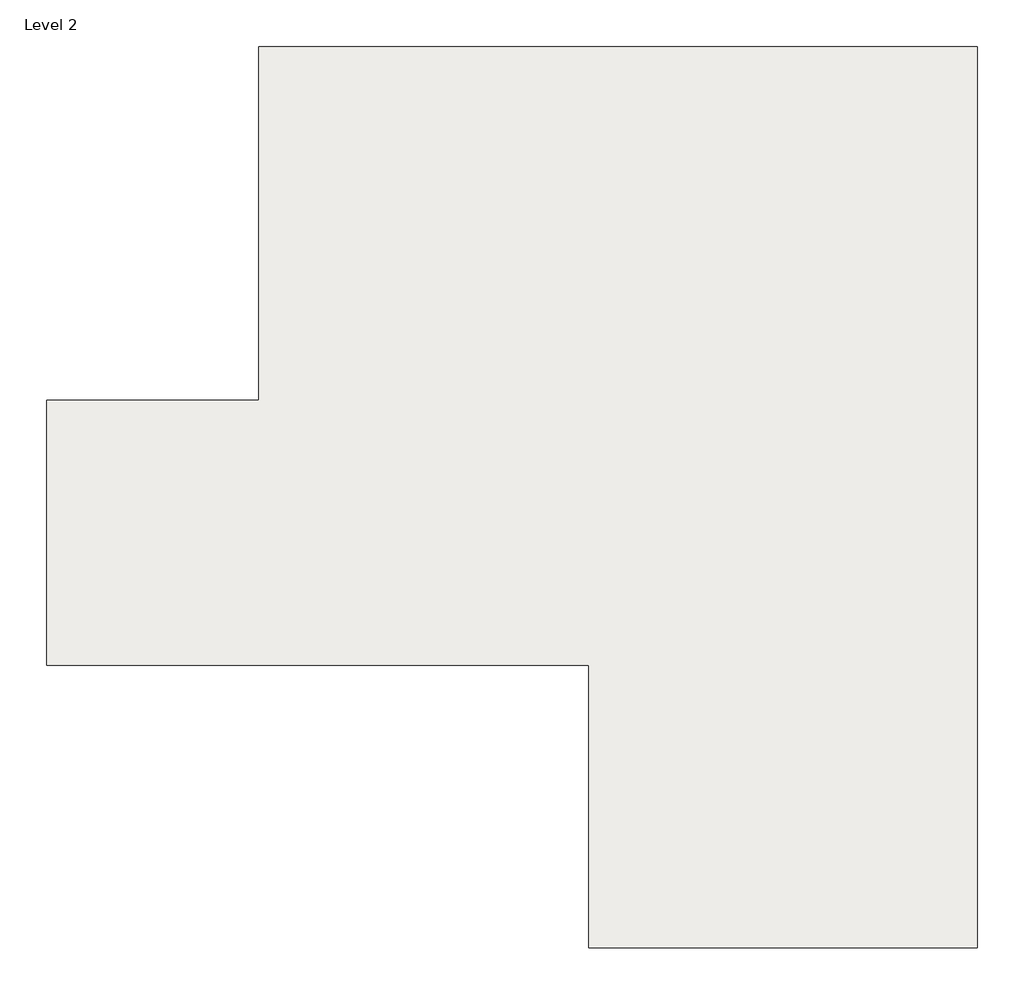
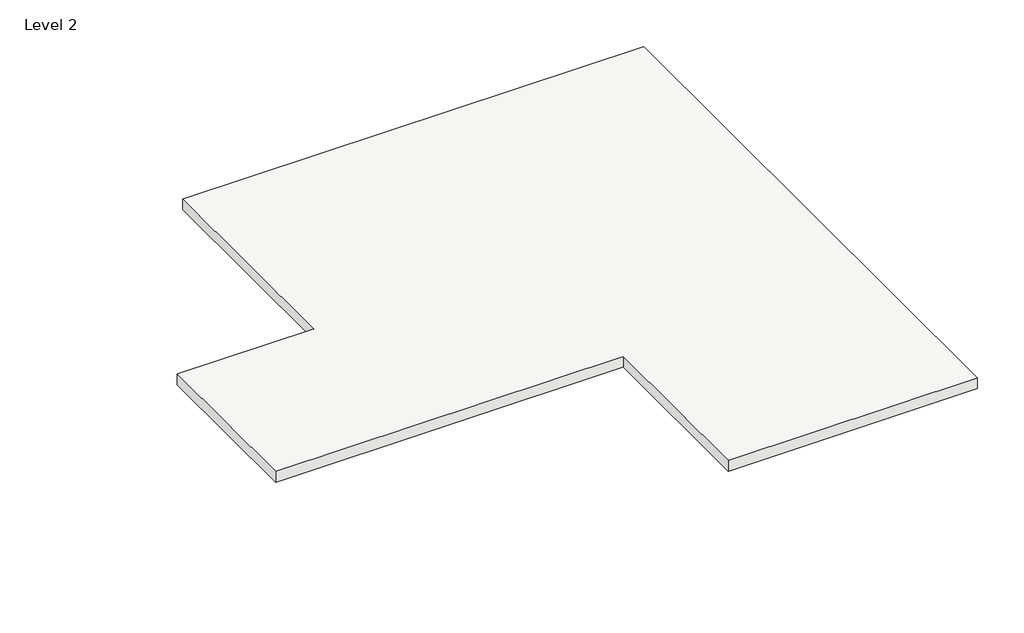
# One storey: 1 slab.
"""IFC4 building model written with IfcOpenShell, lengths in millimetres."""

from ifc_helpers import new_model, si_unit, frame, origin, place, context, project, spatial, polyline, outline, extrude, element, save

model = new_model("IFC4")

# Units and contexts
model_context = context("Model", 3, world=origin())
ifc_project = project(units=[si_unit("LENGTHUNIT", "METRE", prefix="MILLI")], contexts=[model_context])

# Site, building, storey
site = spatial("IfcSite", under=ifc_project)
building = spatial("IfcBuilding", under=site)
storey = spatial("IfcBuildingStorey", under=building, Name="Level 2", Elevation=3000.0)

# Slab
placement = place(None, origin())
element("IfcSlab", 1, ObjectType="Generic 150mm", at=placement, inside=storey, context=model_context, shape_type="SweptSolid", body=[
    extrude(outline(polyline([(-1292.1161882, 1768.9239272), (2107.8838118, 1768.9239272), (2107.8838118, -5881.0760728), (-1192.1161882, -5881.0760728), (-1192.1161882, -3481.0760728), (-5792.1161882, -3481.0760728), (-5792.1161882, -1231.0760728), (-3992.1161882, -1231.0760728), (-3992.1161882, 1768.9239272), (-1292.1161882, 1768.9239272)])), frame((0.0, 0.0, 2850.0), z_axis=(0.0, 0.0, 1.0), x_axis=(1.0, 0.0, 0.0)), (0.0, 0.0, 1.0), 150.0),
])

save(model, "model.ifc")
